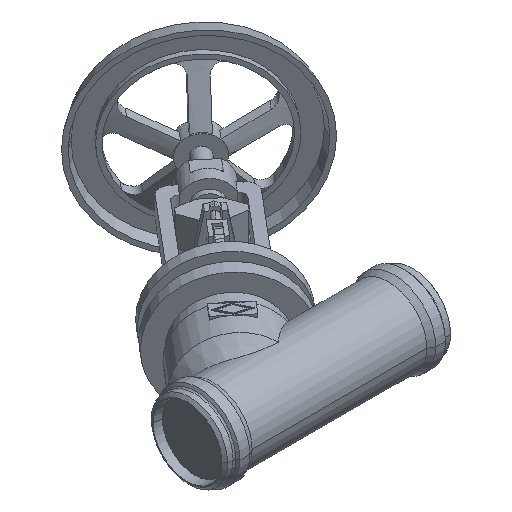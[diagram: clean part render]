
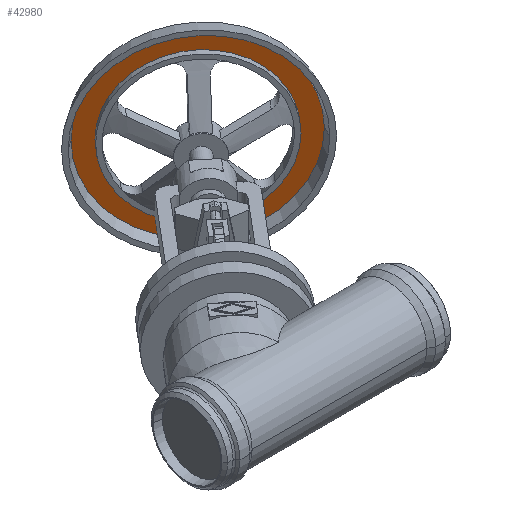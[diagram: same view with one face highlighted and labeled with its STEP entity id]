
A CAD part, isometric view. The second image highlights one B-rep face of the part: STEP entity #42980.
In plain terms, the highlighted planar face has unit normal (-0.643, -0.766, 0).
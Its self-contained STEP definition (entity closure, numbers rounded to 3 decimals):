
#42430=CARTESIAN_POINT('',(312.533,490.929,
0.));
#42440=VERTEX_POINT('',#42430);
#42470=CARTESIAN_POINT('',(418.399,402.097,0.));
#42480=DIRECTION('',(0.643,0.766,
0.));
#42490=DIRECTION('',(-0.766,0.643,
0.));
#42500=AXIS2_PLACEMENT_3D('',#42470,#42480,#42490);
#42510=CIRCLE('',#42500,138.198);
#42520=CARTESIAN_POINT('',(524.265,313.265,
0.));
#42530=VERTEX_POINT('',#42520);
#42540=EDGE_CURVE('',#42530,#42440,#42510,.T.);
#42730=CARTESIAN_POINT('',(322.568,482.509,
0.));
#42740=DIRECTION('',(-0.643,-0.766,0.));
#42750=DIRECTION('',(0.766,-0.643,
0.));
#42760=AXIS2_PLACEMENT_3D('',#42730,#42740,#42750);
#42770=PLANE('',#42760);
#42780=ORIENTED_EDGE('',*,*,#42540,.F.);
#42790=EDGE_CURVE('',#42440,#42530,#42510,.T.);
#42800=ORIENTED_EDGE('',*,*,#42790,.F.);
#42810=EDGE_LOOP('',(#42800,#42780));
#42820=FACE_OUTER_BOUND('',#42810,.T.);
#42830=CARTESIAN_POINT('',(418.399,402.097,0.));
#42840=DIRECTION('',(0.643,0.766,
0.));
#42850=DIRECTION('',(-0.766,0.643,
0.));
#42860=AXIS2_PLACEMENT_3D('',#42830,#42840,#42850);
#42870=CIRCLE('',#42860,112.);
#42880=CARTESIAN_POINT('',(332.602,474.089,
0.));
#42890=VERTEX_POINT('',#42880);
#42900=CARTESIAN_POINT('',(504.196,330.105,
0.));
#42910=VERTEX_POINT('',#42900);
#42920=EDGE_CURVE('',#42890,#42910,#42870,.T.);
#42930=ORIENTED_EDGE('',*,*,#42920,.T.);
#42940=EDGE_CURVE('',#42910,#42890,#42870,.T.);
#42950=ORIENTED_EDGE('',*,*,#42940,.T.);
#42960=EDGE_LOOP('',(#42950,#42930));
#42970=FACE_BOUND('',#42960,.T.);
#42980=ADVANCED_FACE('',(#42820,#42970),#42770,.T.);
